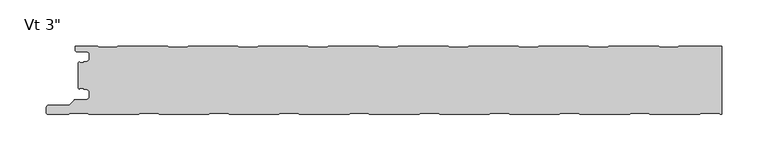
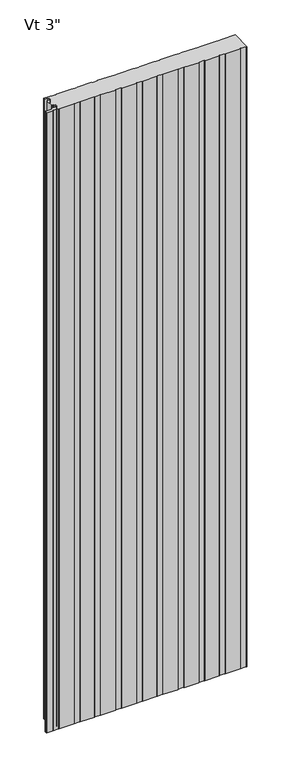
"""IFC4 building model written with IfcOpenShell, lengths in millimetres: plate geometry."""

from ifc_helpers import new_model, si_unit, point, frame_2d, origin, origin_with_axes, place, context, project, spatial, polyline, circle_curve, trimmed, segment, composite_curve, outline, extrude, source, transform, mapped, element, save


def plate_a97a2569(model_context):
    return source(origin(), model_context, "Body", "SweptSolid", [
        extrude(outline(composite_curve([segment(polyline([(-347.9683, -47.8760203), (-348.9999998, -46.8443205), (-348.9999998, -19.0328351), (-347.9686882, -18.0015235)]), True, "CONTINUOUS"), segment(trimmed(circle_curve(frame_2d((-346.968691, -18.0015175)), 0.9999972), [point((-347.9686882, -18.0015235))], [point((-346.968691, -19.0015147))], True, "CARTESIAN"), True, "CONTINUOUS"), segment(polyline([(-346.968691, -19.0015147), (-342.9684873, -19.0015147), (-342.9684873, -18.0015202), (-340.2762775, -18.0015202)]), True, "CONTINUOUS"), segment(trimmed(circle_curve(frame_2d((-340.2762775, -14.7015245)), 3.2999957), [point((-340.2762775, -18.0015202))], [point((-336.9762818, -14.7015245))], True, "CARTESIAN"), True, "CONTINUOUS"), segment(polyline([(-336.9762818, -14.7015245), (-336.9762818, -10.3015333)]), True, "CONTINUOUS"), segment(trimmed(circle_curve(frame_2d((-340.2762777, -10.3015333)), 3.2999959), [point((-336.9762818, -10.3015333))], [point((-340.2762777, -7.0015374))], True, "CARTESIAN"), True, "CONTINUOUS"), segment(polyline([(-340.2762777, -7.0015374), (-350.6962562, -7.0015374)]), True, "CONTINUOUS"), segment(trimmed(circle_curve(frame_2d((-350.6962562, -5.2315432)), 1.7699942), [point((-350.6962562, -7.0015374))], [point((-352.4662504, -5.2315432))], False, "CARTESIAN"), True, "CONTINUOUS"), segment(polyline([(-352.4662504, -5.2315432), (-352.4662504, -0.9999959), (-327.9659738, -0.9999959), (-326.5803312, -2.200235), (-307.2051649, -2.200235), (-305.8195319, -1.0000043), (-251.7661165, -1.0000043), (-250.3804836, -2.200235), (-231.0053173, -2.200235), (-229.6196843, -1.0000043), (-175.5662689, -1.0000043), (-174.180636, -2.200235), (-154.8054697, -2.200235), (-153.4198367, -1.0000043), (-99.3664213, -1.0000043), (-97.9807884, -2.200235), (-78.6056221, -2.200235), (-77.2199891, -1.0000043), (-23.1665737, -1.0000043), (-21.7809408, -2.200235), (-2.4057745, -2.200235), (-1.0201415, -1.0000043), (53.0332739, -1.0000043), (54.4189068, -2.200235), (73.7940731, -2.200235), (75.1797061, -1.0000043), (129.2331215, -1.0000043), (130.6187544, -2.200235), (149.9939207, -2.200235), (151.3795537, -1.0000043), (205.4329691, -1.0000043), (206.818602, -2.200235), (226.1937683, -2.200235), (227.5794013, -1.0000043), (281.6328167, -1.0000043), (283.0184496, -2.200235), (302.3936159, -2.200235), (303.7792489, -1.0000043), (350.4999998, -1.0000043), (350.4999998, -75.2051454), (348.445708, -75.2051454), (347.2403362, -73.9997736), (327.5209237, -73.9997736), (326.320693, -75.2000043), (272.2405612, -75.2000043), (271.0403305, -73.9997736), (251.320918, -73.9997736), (250.1206873, -75.2000043), (196.0405555, -75.2000043), (194.8403248, -73.9997736), (175.1209123, -73.9997736), (173.9206816, -75.2000043), (119.8405499, -75.2000043), (118.6403192, -73.9997736), (98.9209066, -73.9997736), (97.7206759, -75.2000043), (43.6405442, -75.2000043), (42.4403135, -73.9997736), (22.720901, -73.9997736), (21.5206703, -75.2000043), (-32.5594615, -75.2000043), (-33.7596922, -73.9997736), (-53.4791047, -73.9997736), (-54.6793354, -75.2000043), (-108.7594672, -75.2000043), (-109.9596979, -73.9997736), (-129.6791104, -73.9997736), (-130.8793411, -75.2000043), (-184.9594729, -75.2000043), (-186.1597036, -73.9997736), (-205.8791161, -73.9997736), (-207.0793468, -75.2000043), (-261.1594786, -75.2000043), (-262.3597093, -73.9997736), (-282.0791218, -73.9997736), (-283.2793525, -75.2000043), (-337.3594843, -75.2000043), (-338.559715, -73.9997736), (-358.2791275, -73.9997736), (-359.479096, -75.1997421), (-381.4521175, -75.1997421)]), True, "CONTINUOUS"), segment(trimmed(circle_curve(frame_2d((-381.4521175, -72.6295028)), 2.5702393), [point((-381.4521175, -75.1997421))], [point((-384.0125697, -72.4054172))], False, "CARTESIAN"), True, "CONTINUOUS"), segment(polyline([(-384.0125697, -72.4054172), (-383.5765707, -67.4235963)]), True, "CONTINUOUS"), segment(trimmed(circle_curve(frame_2d((-380.9198391, -67.9049869)), 2.6999926), [point((-383.5765707, -67.4235963))], [point((-380.9198391, -65.2049943))], False, "CARTESIAN"), True, "CONTINUOUS"), segment(polyline([(-380.9198391, -65.2049943), (-358.8247094, -65.2049943), (-353.3226383, -59.7029232)]), True, "CONTINUOUS"), segment(trimmed(circle_curve(frame_2d((-352.1205606, -60.9050009)), 1.6999946), [point((-353.3226383, -59.7029232))], [point((-352.1205606, -59.2050063))], False, "CARTESIAN"), True, "CONTINUOUS"), segment(polyline([(-352.1205606, -59.2050063), (-340.3096715, -59.2050063)]), True, "CONTINUOUS"), segment(trimmed(circle_curve(frame_2d((-340.3096715, -55.855011)), 3.3499953), [point((-340.3096715, -59.2050063))], [point((-336.9596762, -55.855011))], True, "CARTESIAN"), True, "CONTINUOUS"), segment(polyline([(-336.9596762, -55.855011), (-336.9596762, -51.4550198)]), True, "CONTINUOUS"), segment(trimmed(circle_curve(frame_2d((-340.3096715, -51.4550198)), 3.3499953), [point((-336.9596762, -51.4550198))], [point((-340.3096715, -48.1050245))], True, "CARTESIAN"), True, "CONTINUOUS"), segment(polyline([(-340.3096715, -48.1050245), (-343.0087826, -48.1050245), (-343.0087826, -46.7065456), (-346.767176, -46.7065456)]), True, "CONTINUOUS"), segment(trimmed(circle_curve(frame_2d((-346.7686906, -47.9065423)), 1.1999976), [point((-346.767176, -46.7065456))], [point((-347.9683, -47.8760203))], True, "CARTESIAN"), True, "CONTINUOUS")], self_intersect=False)), origin_with_axes(), (0.0, 0.0, 1.0), 2400.0),
    ])


if __name__ == "__main__":
    model = new_model("IFC4")
    model_context = context("Model", 3, world=origin())
    ifc_project = project(units=[si_unit("LENGTHUNIT", "METRE", prefix="MILLI")], contexts=[model_context])
    site = spatial("IfcSite", under=ifc_project)
    building = spatial("IfcBuilding", under=site)
    placement = place(None, origin())
    plate_shape = plate_a97a2569(model_context)
    element("IfcPlate", 1, ObjectType="KIP-30-Karrier-KP-R19-CP-Vt-SL_SL : Vt 3\"", at=placement, inside=building, context=model_context, shape_type="MappedRepresentation", body=[
        mapped(plate_shape, transform((0.0, 0.0, 0.0), x_axis=(1.0, 0.0, 0.0), y_axis=(0.0, 1.0, 0.0), z_axis=(0.0, 0.0, 1.0))),
    ])
    save(model, "model.ifc")
